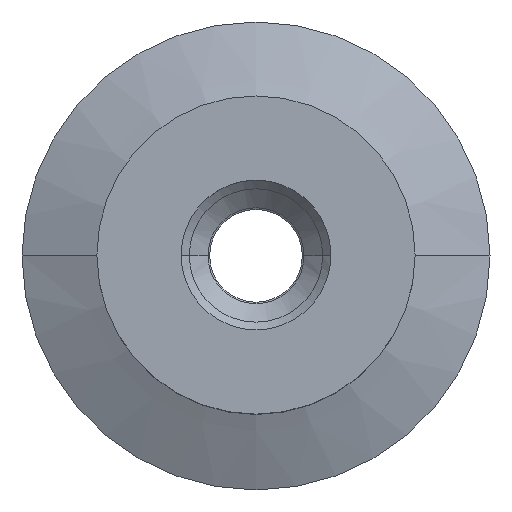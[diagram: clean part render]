
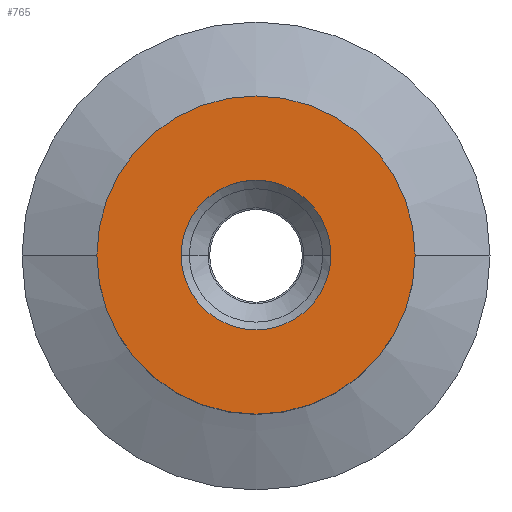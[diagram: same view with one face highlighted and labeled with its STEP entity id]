
A CAD part, top view. The second image highlights one B-rep face of the part: STEP entity #765.
In plain terms, the highlighted planar face has unit normal (0, 0, 1).
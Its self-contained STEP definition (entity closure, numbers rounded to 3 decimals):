
#50 = ORIENTED_EDGE ( 'NONE', *, *, #561, .T. ) ;
#53 = CARTESIAN_POINT ( 'NONE',  ( 4., 0., 0. ) ) ;
#65 = VERTEX_POINT ( 'NONE', #181 ) ;
#165 = AXIS2_PLACEMENT_3D ( 'NONE', #213, #944, #428 ) ;
#166 = AXIS2_PLACEMENT_3D ( 'NONE', #887, #708, #446 ) ;
#181 = CARTESIAN_POINT ( 'NONE',  ( -4., 0., 0. ) ) ;
#187 = VERTEX_POINT ( 'NONE', #53 ) ;
#206 = ORIENTED_EDGE ( 'NONE', *, *, #610, .F. ) ;
#213 = CARTESIAN_POINT ( 'NONE',  ( 0., 0., 0. ) ) ;
#226 = DIRECTION ( 'NONE',  ( 0., 0., 1. ) ) ;
#282 = EDGE_CURVE ( 'NONE', #612, #580, #572, .T. ) ;
#317 = AXIS2_PLACEMENT_3D ( 'NONE', #523, #445, #883 ) ;
#320 = EDGE_CURVE ( 'NONE', #187, #65, #825, .T. ) ;
#330 = CARTESIAN_POINT ( 'NONE',  ( 0., 0., 0. ) ) ;
#353 = ORIENTED_EDGE ( 'NONE', *, *, #320, .F. ) ;
#374 = EDGE_LOOP ( 'NONE', ( #353, #206 ) ) ;
#395 = CIRCLE ( 'NONE', #317, 4. ) ;
#410 = CARTESIAN_POINT ( 'NONE',  ( 8.5, 0., 0. ) ) ;
#428 = DIRECTION ( 'NONE',  ( -1., 0., 0. ) ) ;
#430 = AXIS2_PLACEMENT_3D ( 'NONE', #751, #226, #681 ) ;
#433 = EDGE_LOOP ( 'NONE', ( #50, #596 ) ) ;
#445 = DIRECTION ( 'NONE',  ( 0., 0., 1. ) ) ;
#446 = DIRECTION ( 'NONE',  ( 1., 0., 0. ) ) ;
#512 = PLANE ( 'NONE',  #165 ) ;
#523 = CARTESIAN_POINT ( 'NONE',  ( 0., 0., 0. ) ) ;
#561 = EDGE_CURVE ( 'NONE', #580, #612, #958, .T. ) ;
#572 = CIRCLE ( 'NONE', #430, 8.5 ) ;
#580 = VERTEX_POINT ( 'NONE', #410 ) ;
#596 = ORIENTED_EDGE ( 'NONE', *, *, #282, .T. ) ;
#610 = EDGE_CURVE ( 'NONE', #65, #187, #395, .T. ) ;
#612 = VERTEX_POINT ( 'NONE', #680 ) ;
#680 = CARTESIAN_POINT ( 'NONE',  ( -8.5, 0., 0. ) ) ;
#681 = DIRECTION ( 'NONE',  ( 1., 0., 0. ) ) ;
#708 = DIRECTION ( 'NONE',  ( 0., 0., 1. ) ) ;
#751 = CARTESIAN_POINT ( 'NONE',  ( 0., 0., 0. ) ) ;
#765 = ADVANCED_FACE ( 'NONE', ( #804, #828 ), #512, .F. ) ;
#781 = DIRECTION ( 'NONE',  ( 0., 0., 1. ) ) ;
#804 = FACE_BOUND ( 'NONE', #374, .T. ) ;
#825 = CIRCLE ( 'NONE', #832, 4. ) ;
#828 = FACE_OUTER_BOUND ( 'NONE', #433, .T. ) ;
#832 = AXIS2_PLACEMENT_3D ( 'NONE', #330, #781, #881 ) ;
#881 = DIRECTION ( 'NONE',  ( 1., 0., 0. ) ) ;
#883 = DIRECTION ( 'NONE',  ( 1., 0., 0. ) ) ;
#887 = CARTESIAN_POINT ( 'NONE',  ( 0., 0., 0. ) ) ;
#944 = DIRECTION ( 'NONE',  ( 0., 0., -1. ) ) ;
#958 = CIRCLE ( 'NONE', #166, 8.5 ) ;
